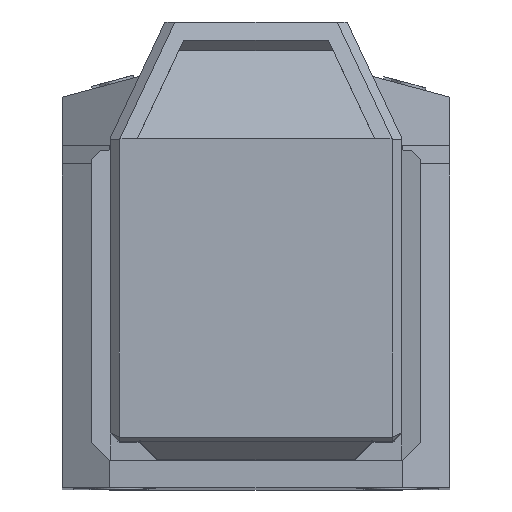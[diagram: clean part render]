
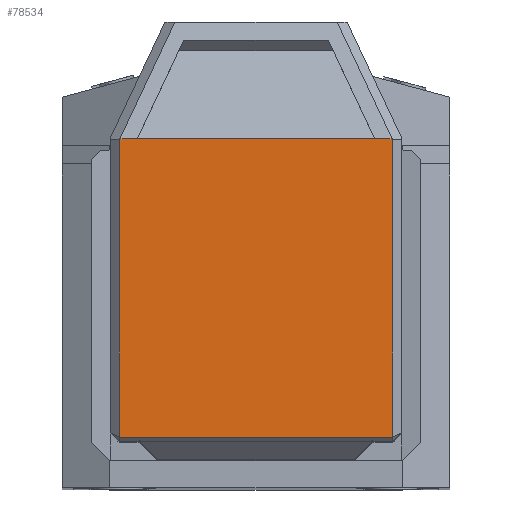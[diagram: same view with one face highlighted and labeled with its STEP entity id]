
A CAD part, top view. The second image highlights one B-rep face of the part: STEP entity #78534.
In plain terms, the highlighted planar face has unit normal (0, 0, 1).
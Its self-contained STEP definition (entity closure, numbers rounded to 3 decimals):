
#74352=DIRECTION('',(1.,0.,0.));
#74353=VECTOR('',#74352,1.907);
#74354=CARTESIAN_POINT('',(-14.907,38.2,48.));
#74355=LINE('',#74354,#74353);
#74359=DIRECTION('',(1.,0.,0.));
#74360=VECTOR('',#74359,26.);
#74361=CARTESIAN_POINT('',(-13.,38.2,48.));
#74362=LINE('',#74361,#74360);
#74366=DIRECTION('',(1.,0.,0.));
#74367=VECTOR('',#74366,1.907);
#74368=CARTESIAN_POINT('',(13.,38.2,48.));
#74369=LINE('',#74368,#74367);
#74380=DIRECTION('',(0.,-1.,0.));
#74381=VECTOR('',#74380,32.59);
#74382=CARTESIAN_POINT('',(15.,38.09,48.));
#74383=LINE('',#74382,#74381);
#74464=DIRECTION('',(-0.644,0.765,0.));
#74465=VECTOR('',#74464,0.144);
#74466=CARTESIAN_POINT('',(15.,38.09,48.));
#74467=LINE('',#74466,#74465);
#74576=DIRECTION('',(-0.644,-0.765,0.));
#74577=VECTOR('',#74576,0.144);
#74578=CARTESIAN_POINT('',(-14.907,38.2,48.));
#74579=LINE('',#74578,#74577);
#74625=DIRECTION('',(0.,1.,0.));
#74626=VECTOR('',#74625,32.59);
#74627=CARTESIAN_POINT('',(-15.,5.5,
48.));
#74628=LINE('',#74627,#74626);
#74653=DIRECTION('',(-1.,0.,0.));
#74654=VECTOR('',#74653,30.);
#74655=CARTESIAN_POINT('',(15.,5.5,48.));
#74656=LINE('',#74655,#74654);
#78271=CARTESIAN_POINT('',(-13.,38.2,48.));
#78272=CARTESIAN_POINT('',(13.,38.2,48.));
#78273=VERTEX_POINT('',#78271);
#78274=VERTEX_POINT('',#78272);
#78358=CARTESIAN_POINT('',(14.907,38.2,48.));
#78360=VERTEX_POINT('',#78358);
#78362=CARTESIAN_POINT('',(-14.907,38.2,48.));
#78364=VERTEX_POINT('',#78362);
#78385=CARTESIAN_POINT('',(15.,38.09,48.));
#78387=VERTEX_POINT('',#78385);
#78389=CARTESIAN_POINT('',(-15.,38.09,48.));
#78391=VERTEX_POINT('',#78389);
#78427=CARTESIAN_POINT('',(-15.,5.5,
48.));
#78429=VERTEX_POINT('',#78427);
#78433=CARTESIAN_POINT('',(15.,5.5,48.));
#78435=VERTEX_POINT('',#78433);
#78511=CARTESIAN_POINT('',(0.,5.,48.));
#78512=DIRECTION('',(0.,0.,-1.));
#78513=DIRECTION('',(0.,1.,0.));
#78514=AXIS2_PLACEMENT_3D('',#78511,#78512,#78513);
#78515=PLANE('',#78514);
#78517=ORIENTED_EDGE('',*,*,#78516,.T.);
#78519=ORIENTED_EDGE('',*,*,#78518,.T.);
#78521=ORIENTED_EDGE('',*,*,#78520,.T.);
#78523=ORIENTED_EDGE('',*,*,#78522,.F.);
#78525=ORIENTED_EDGE('',*,*,#78524,.T.);
#78527=ORIENTED_EDGE('',*,*,#78526,.T.);
#78529=ORIENTED_EDGE('',*,*,#78528,.T.);
#78531=ORIENTED_EDGE('',*,*,#78530,.F.);
#78532=EDGE_LOOP('',(#78517,#78519,#78521,#78523,#78525,#78527,#78529,#78531));
#78533=FACE_OUTER_BOUND('',#78532,.F.);
#78534=ADVANCED_FACE('',(#78533),#78515,.F.);
#78516=EDGE_CURVE('',#78387,#78435,#74383,.T.);
#78518=EDGE_CURVE('',#78435,#78429,#74656,.T.);
#78520=EDGE_CURVE('',#78429,#78391,#74628,.T.);
#78522=EDGE_CURVE('',#78364,#78391,#74579,.T.);
#78524=EDGE_CURVE('',#78364,#78273,#74355,.T.);
#78526=EDGE_CURVE('',#78273,#78274,#74362,.T.);
#78528=EDGE_CURVE('',#78274,#78360,#74369,.T.);
#78530=EDGE_CURVE('',#78387,#78360,#74467,.T.);
